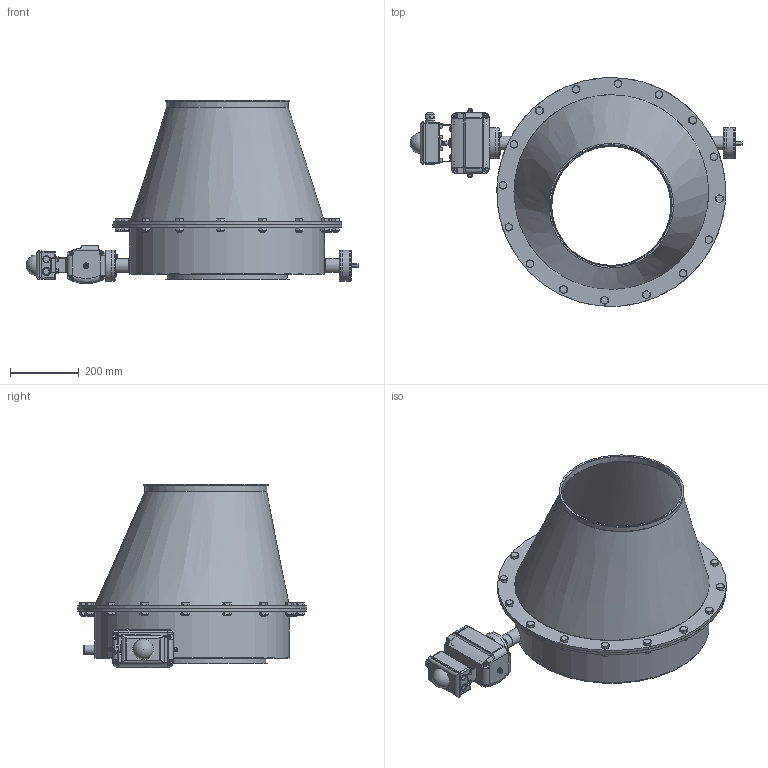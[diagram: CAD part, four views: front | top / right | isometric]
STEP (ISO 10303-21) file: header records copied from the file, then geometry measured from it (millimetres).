
FILE_DESCRIPTION((''),'2;1');
FILE_NAME('U:\Wolfgang\Marcel-3D\fertig\Kapitel 8\3521218.stp','2012-01-13T11:21:36',('iwienholt'),(''),'Autodesk Inventor 2010','Autodesk Inventor 2010','');
FILE_SCHEMA(('AUTOMOTIVE_DESIGN { 1 0 10303 214 1 1 1 1 }'));
Length unit declared in the file: millimetre
Products named in the file (27): 3521218; 3521218-1; 05681301; wellenendeD20; Buchse D20 90-50; LagerdeckelD20; PendelkugellagerD20; EndstückD20; WellenendeD20 mit Antrieb; DIN EN ISO 4018 M8x35; Pneumatischer SchwenkantriebS85D-2; Body; roter Verschluss; A1 Schwenkantrieb S85D; Body S085D; DIN EN ISO 4018 M5x10; DIN 125-1 A A 13; End Cap L85; End Cap R85; DIN 125-1 A A 8,4; DIN 916 M8  x  40; DIN 555 - ersetzt durch DIN EN 24034 M8; DIN EN ISO 4762 M6 x 12; Halterung; Deckel2; DIN EN ISO 4018 M14x30; DIN 555 - ersetzt durch DIN EN 24034 M14
Assembly tree (81 placements, depth 5):
  3521218
    3521218-1
    05681301  x2
    wellenendeD20
      Buchse D20 90-50
      LagerdeckelD20
      PendelkugellagerD20
      EndstückD20
    WellenendeD20 mit Antrieb
      Buchse D20 90-50
      PendelkugellagerD20
      DIN EN ISO 4018 M8x35  x4
      Pneumatischer SchwenkantriebS85D-2
        Body
        roter Verschluss
        A1 Schwenkantrieb S85D
          Body S085D
          DIN EN ISO 4018 M5x10  x4
          DIN 125-1 A A 13  x2
          End Cap L85
          End Cap R85
          DIN 125-1 A A 8,4  x2
          DIN 916 M8  x  40  x2
          DIN 555 - ersetzt durch DIN EN 24034 M8  x2
          DIN EN ISO 4762 M6 x 12  x8
        Halterung  x2
        DIN EN ISO 4018 M5x10  x4
        Deckel2
    DIN EN ISO 4018 M14x30  x16
    DIN 555 - ersetzt durch DIN EN 24034 M14  x16
Bounding box: 962.5 x 663.88 x 531.23 mm (x, y, z)
Volume: 6296466.7 mm3; surface area: 2904523.1 mm2
Topology: 79 solids, 79 shells, 1528 faces, 3476 edges, 2189 vertices
Faces by surface type: plane 770, cone 306, cylinder 223, bspline 189, torus 39, sphere 1
Full cylindrical faces by diameter (mm): 3.242 x4, 5 x10, 6 x8, 6.647 x4, 8 x10, 8.376 x1, 8.4 x2, 10 x8, 11.9 x2, 12.5 x1, 13 x5, 14 x17, 16 x2, 17 x1, 17.79 x2, 18 x3, 20.5 x2, 22 x1, 22.4 x1, 23 x2, 24 x3, 26.4 x1, 28.5 x1, 30 x3, 36 x2, 40 x5, 47 x2, 90 x5, 349 x1, 353 x1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
Entity records: 27091 total; most frequent: CARTESIAN_POINT 11174, DIRECTION 3134, ORIENTED_EDGE 2778, EDGE_CURVE 1389, AXIS2_PLACEMENT_3D 1234, EDGE_LOOP 1015, VERTEX_POINT 980, FACE_OUTER_BOUND 684
